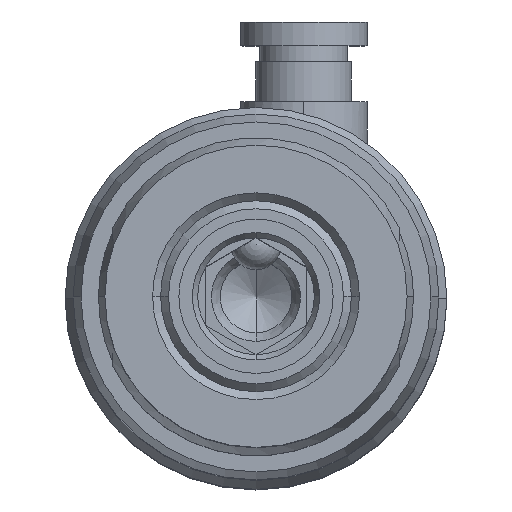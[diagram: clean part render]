
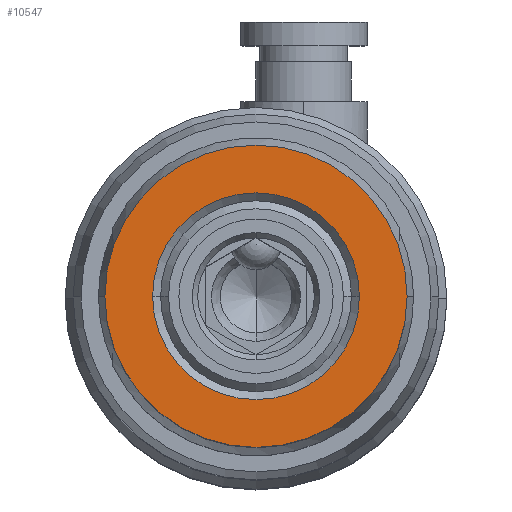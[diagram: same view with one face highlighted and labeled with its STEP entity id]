
A CAD part, top view. The second image highlights one B-rep face of the part: STEP entity #10547.
In plain terms, the highlighted planar face has unit normal (0, 0, 1).
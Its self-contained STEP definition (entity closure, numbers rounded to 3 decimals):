
#5747 = CARTESIAN_POINT ( 'NONE',  ( 9.5, 0., 0. ) ) ;
#5748 = CARTESIAN_POINT ( 'NONE',  ( -9.5, 0., 0. ) ) ;
#5798 = CARTESIAN_POINT ( 'NONE',  ( 6.5, 0., 0. ) ) ;
#5799 = DIRECTION ( 'NONE',  ( 1., 0., 0. ) ) ;
#5800 = DIRECTION ( 'NONE',  ( 0., 0., 1. ) ) ;
#5801 = CARTESIAN_POINT ( 'NONE',  ( 0., 0., 0. ) ) ;
#5802 = AXIS2_PLACEMENT_3D ( 'NONE', #5801, #5800, #5799 ) ;
#5803 = CIRCLE ( 'NONE', #5802, 6.5 ) ;
#5832 = DIRECTION ( 'NONE',  ( 1., 0., 0. ) ) ;
#5833 = DIRECTION ( 'NONE',  ( 0., 0., 1. ) ) ;
#5834 = CARTESIAN_POINT ( 'NONE',  ( 0., 0., 0. ) ) ;
#5835 = AXIS2_PLACEMENT_3D ( 'NONE', #5834, #5833, #5832 ) ;
#5836 = CIRCLE ( 'NONE', #5835, 9.5 ) ;
#5873 = CARTESIAN_POINT ( 'NONE',  ( -6.5, 0., 0. ) ) ;
#5904 = DIRECTION ( 'NONE',  ( 1., 0., 0. ) ) ;
#5905 = DIRECTION ( 'NONE',  ( 0., 0., 1. ) ) ;
#5906 = CARTESIAN_POINT ( 'NONE',  ( 0., 0., 0. ) ) ;
#5907 = AXIS2_PLACEMENT_3D ( 'NONE', #5906, #5905, #5904 ) ;
#5908 = CIRCLE ( 'NONE', #5907, 9.5 ) ;
#5943 = DIRECTION ( 'NONE',  ( -1., 0., 0. ) ) ;
#5944 = DIRECTION ( 'NONE',  ( 0., 0., -1. ) ) ;
#5945 = CARTESIAN_POINT ( 'NONE',  ( 0., 6.5, 0. ) ) ;
#5946 = AXIS2_PLACEMENT_3D ( 'NONE', #5945, #5944, #5943 ) ;
#5947 = PLANE ( 'NONE',  #5946 ) ;
#5948 = FACE_OUTER_BOUND ( 'NONE', #10527, .T. ) ;
#5949 = FACE_BOUND ( 'NONE', #10548, .T. ) ;
#5950 = DIRECTION ( 'NONE',  ( 1., 0., 0. ) ) ;
#5951 = DIRECTION ( 'NONE',  ( 0., 0., 1. ) ) ;
#5952 = CARTESIAN_POINT ( 'NONE',  ( 0., 0., 0. ) ) ;
#5953 = AXIS2_PLACEMENT_3D ( 'NONE', #5952, #5951, #5950 ) ;
#5954 = CIRCLE ( 'NONE', #5953, 6.5 ) ;
#10443 = VERTEX_POINT ( 'NONE', #5748 ) ;
#10444 = VERTEX_POINT ( 'NONE', #5747 ) ;
#10486 = EDGE_CURVE ( 'NONE', #10512, #10487, #5803, .T. ) ;
#10487 = VERTEX_POINT ( 'NONE', #5798 ) ;
#10501 = EDGE_CURVE ( 'NONE', #10444, #10443, #5836, .T. ) ;
#10512 = VERTEX_POINT ( 'NONE', #5873 ) ;
#10527 = EDGE_LOOP ( 'NONE', ( #10528, #10529 ) ) ;
#10528 = ORIENTED_EDGE ( 'NONE', *, *, #10501, .T. ) ;
#10529 = ORIENTED_EDGE ( 'NONE', *, *, #10530, .T. ) ;
#10530 = EDGE_CURVE ( 'NONE', #10443, #10444, #5908, .T. ) ;
#10546 = EDGE_CURVE ( 'NONE', #10487, #10512, #5954, .T. ) ;
#10547 = ADVANCED_FACE ( 'NONE', ( #5949, #5948 ), #5947, .F. ) ;
#10548 = EDGE_LOOP ( 'NONE', ( #10549, #10599 ) ) ;
#10549 = ORIENTED_EDGE ( 'NONE', *, *, #10546, .F. ) ;
#10599 = ORIENTED_EDGE ( 'NONE', *, *, #10486, .F. ) ;
